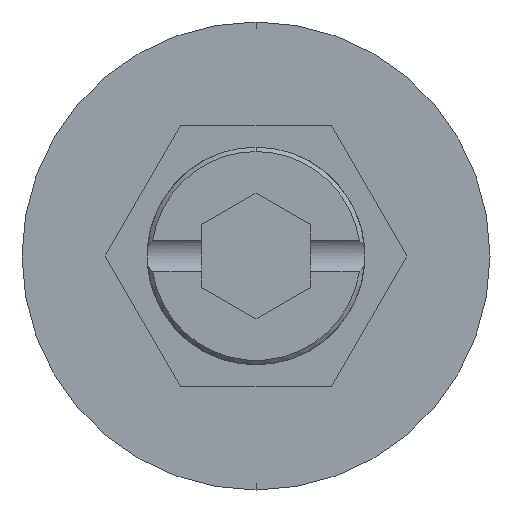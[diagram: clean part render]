
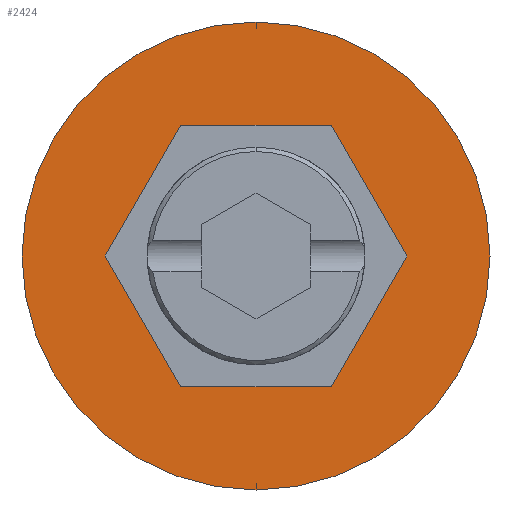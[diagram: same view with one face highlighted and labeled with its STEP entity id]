
A CAD part, front view. The second image highlights one B-rep face of the part: STEP entity #2424.
In plain terms, the highlighted planar face has unit normal (0, -1, 0).
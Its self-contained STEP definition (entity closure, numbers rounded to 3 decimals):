
#51 = VECTOR ( 'NONE', #3203, 1000. ) ;
#58 = DIRECTION ( 'NONE',  ( 0.5, 0., 0.866 ) ) ;
#67 = ORIENTED_EDGE ( 'NONE', *, *, #2517, .F. ) ;
#230 = CARTESIAN_POINT ( 'NONE',  ( 3.464, 0., 6. ) ) ;
#315 = ORIENTED_EDGE ( 'NONE', *, *, #978, .F. ) ;
#333 = EDGE_CURVE ( 'NONE', #1457, #1410, #638, .T. ) ;
#407 = DIRECTION ( 'NONE',  ( 0., 0., -1. ) ) ;
#428 = DIRECTION ( 'NONE',  ( 0., -1., 0. ) ) ;
#486 = CARTESIAN_POINT ( 'NONE',  ( 0., 0., 0. ) ) ;
#490 = DIRECTION ( 'NONE',  ( 0.5, 0., -0.866 ) ) ;
#526 = EDGE_CURVE ( 'NONE', #2135, #2432, #3010, .T. ) ;
#568 = LINE ( 'NONE', #1297, #1147 ) ;
#629 = ORIENTED_EDGE ( 'NONE', *, *, #1088, .F. ) ;
#638 = LINE ( 'NONE', #742, #3237 ) ;
#698 = CARTESIAN_POINT ( 'NONE',  ( -3.464, 0., 6. ) ) ;
#724 = DIRECTION ( 'NONE',  ( -1., 0., 0. ) ) ;
#740 = VERTEX_POINT ( 'NONE', #1400 ) ;
#742 = CARTESIAN_POINT ( 'NONE',  ( -6.928, 0., 0. ) ) ;
#811 = EDGE_CURVE ( 'NONE', #2432, #2135, #1110, .T. ) ;
#832 = LINE ( 'NONE', #1913, #2756 ) ;
#875 = CARTESIAN_POINT ( 'NONE',  ( 0., 0., 0. ) ) ;
#919 = DIRECTION ( 'NONE',  ( 0., 0., -1. ) ) ;
#975 = VERTEX_POINT ( 'NONE', #230 ) ;
#978 = EDGE_CURVE ( 'NONE', #975, #1349, #2585, .T. ) ;
#1067 = AXIS2_PLACEMENT_3D ( 'NONE', #1970, #1944, #919 ) ;
#1088 = EDGE_CURVE ( 'NONE', #1769, #740, #568, .T. ) ;
#1110 = CIRCLE ( 'NONE', #1161, 10.75 ) ;
#1112 = FACE_OUTER_BOUND ( 'NONE', #2249, .T. ) ;
#1147 = VECTOR ( 'NONE', #58, 1000. ) ;
#1161 = AXIS2_PLACEMENT_3D ( 'NONE', #486, #428, #407 ) ;
#1166 = ORIENTED_EDGE ( 'NONE', *, *, #2995, .F. ) ;
#1200 = CARTESIAN_POINT ( 'NONE',  ( -3.464, 0., -6. ) ) ;
#1269 = CARTESIAN_POINT ( 'NONE',  ( 0., 0., 10.75 ) ) ;
#1297 = CARTESIAN_POINT ( 'NONE',  ( 3.464, 0., -6. ) ) ;
#1346 = CARTESIAN_POINT ( 'NONE',  ( 6.928, 0., 0. ) ) ;
#1349 = VERTEX_POINT ( 'NONE', #698 ) ;
#1358 = VECTOR ( 'NONE', #3089, 1000. ) ;
#1393 = DIRECTION ( 'NONE',  ( 0., 0., -1. ) ) ;
#1400 = CARTESIAN_POINT ( 'NONE',  ( 6.928, 0., 0. ) ) ;
#1410 = VERTEX_POINT ( 'NONE', #2689 ) ;
#1457 = VERTEX_POINT ( 'NONE', #1678 ) ;
#1618 = ORIENTED_EDGE ( 'NONE', *, *, #526, .T. ) ;
#1642 = CARTESIAN_POINT ( 'NONE',  ( 0., 0., -10.75 ) ) ;
#1678 = CARTESIAN_POINT ( 'NONE',  ( -6.928, 0., 0. ) ) ;
#1712 = FACE_BOUND ( 'NONE', #3068, .T. ) ;
#1769 = VERTEX_POINT ( 'NONE', #2625 ) ;
#1887 = ORIENTED_EDGE ( 'NONE', *, *, #333, .F. ) ;
#1905 = VECTOR ( 'NONE', #724, 1000. ) ;
#1913 = CARTESIAN_POINT ( 'NONE',  ( -3.464, 0., 6. ) ) ;
#1944 = DIRECTION ( 'NONE',  ( 0., -1., 0. ) ) ;
#1970 = CARTESIAN_POINT ( 'NONE',  ( 0., 0., 0. ) ) ;
#1976 = CARTESIAN_POINT ( 'NONE',  ( 3.464, 0., 6. ) ) ;
#1996 = AXIS2_PLACEMENT_3D ( 'NONE', #875, #2888, #1393 ) ;
#2050 = ORIENTED_EDGE ( 'NONE', *, *, #811, .T. ) ;
#2135 = VERTEX_POINT ( 'NONE', #1269 ) ;
#2143 = PLANE ( 'NONE',  #1996 ) ;
#2249 = EDGE_LOOP ( 'NONE', ( #2050, #1618 ) ) ;
#2405 = DIRECTION ( 'NONE',  ( -0.5, 0., -0.866 ) ) ;
#2424 = ADVANCED_FACE ( 'NONE', ( #1712, #1112 ), #2143, .T. ) ;
#2432 = VERTEX_POINT ( 'NONE', #1642 ) ;
#2470 = ORIENTED_EDGE ( 'NONE', *, *, #2663, .F. ) ;
#2517 = EDGE_CURVE ( 'NONE', #1349, #1457, #832, .T. ) ;
#2538 = LINE ( 'NONE', #1346, #1358 ) ;
#2585 = LINE ( 'NONE', #1976, #1905 ) ;
#2620 = LINE ( 'NONE', #1200, #51 ) ;
#2625 = CARTESIAN_POINT ( 'NONE',  ( 3.464, 0., -6. ) ) ;
#2663 = EDGE_CURVE ( 'NONE', #740, #975, #2538, .T. ) ;
#2689 = CARTESIAN_POINT ( 'NONE',  ( -3.464, 0., -6. ) ) ;
#2756 = VECTOR ( 'NONE', #2405, 1000. ) ;
#2888 = DIRECTION ( 'NONE',  ( 0., -1., 0. ) ) ;
#2995 = EDGE_CURVE ( 'NONE', #1410, #1769, #2620, .T. ) ;
#3010 = CIRCLE ( 'NONE', #1067, 10.75 ) ;
#3068 = EDGE_LOOP ( 'NONE', ( #1166, #1887, #67, #315, #2470, #629 ) ) ;
#3089 = DIRECTION ( 'NONE',  ( -0.5, 0., 0.866 ) ) ;
#3203 = DIRECTION ( 'NONE',  ( 1., 0., 0. ) ) ;
#3237 = VECTOR ( 'NONE', #490, 1000. ) ;
